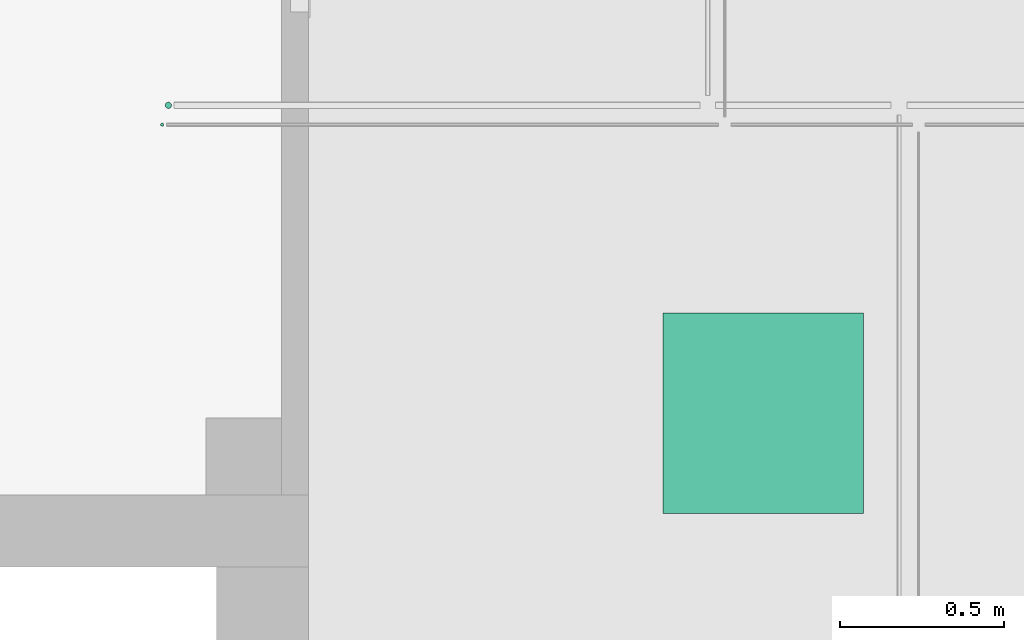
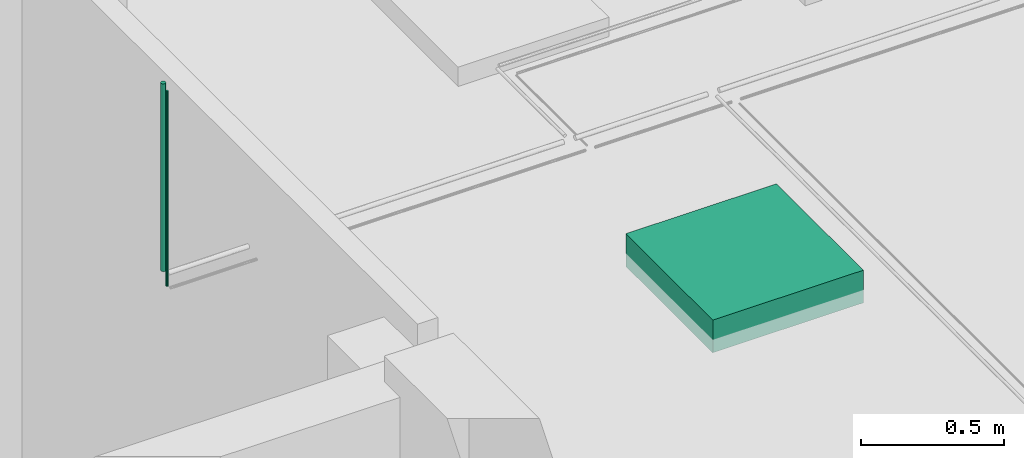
# One storey, part 7 of 24: 2 flow segments, 1 flow terminal.
"""IFC2X3 building model written with IfcOpenShell, lengths in millimetres."""

from ifc_helpers import new_model, entity, si_unit, converted_unit, derived_unit, direction, frame, frame_2d, origin, origin_2d_with_axis, place, context, subcontext, project, spatial, polyline, rectangle, circle, outline, extrude, source, transform, mapped, material, material_list, type_object, type_shapes, element, save


model = new_model("IFC2X3")

# Units and contexts
model_context = context("Model", 3, precision=0.01, world=origin(), true_north=direction((6.123031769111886e-17, 1.0)))
body_context = subcontext(model_context, "Body", "Model", "MODEL_VIEW")
ifc_project = project(units=[si_unit("LENGTHUNIT", "METRE", prefix="MILLI"), si_unit("AREAUNIT", "SQUARE_METRE"), si_unit("VOLUMEUNIT", "CUBIC_METRE"), converted_unit("PLANEANGLEUNIT", "DEGREE", entity("IfcRatioMeasure", 0.017453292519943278), si_unit("PLANEANGLEUNIT", "RADIAN"), dimensions=[0, 0, 0, 0, 0, 0, 0]), si_unit("MASSUNIT", "GRAM", prefix="KILO"), derived_unit("MASSDENSITYUNIT", [(si_unit("MASSUNIT", "GRAM", prefix="KILO"), 1), (si_unit("LENGTHUNIT", "METRE"), -3)]), derived_unit("MOMENTOFINERTIAUNIT", [(si_unit("LENGTHUNIT", "METRE"), 4)]), si_unit("TIMEUNIT", "SECOND"), si_unit("FREQUENCYUNIT", "HERTZ"), si_unit("THERMODYNAMICTEMPERATUREUNIT", "DEGREE_CELSIUS"), derived_unit("THERMALTRANSMITTANCEUNIT", [(si_unit("MASSUNIT", "GRAM", prefix="KILO"), 1), (si_unit("THERMODYNAMICTEMPERATUREUNIT", "KELVIN"), -1), (si_unit("TIMEUNIT", "SECOND"), -3)]), derived_unit("VOLUMETRICFLOWRATEUNIT", [(si_unit("LENGTHUNIT", "METRE"), 3), (si_unit("TIMEUNIT", "SECOND"), -1)]), derived_unit("MASSFLOWRATEUNIT", [(si_unit("MASSUNIT", "GRAM", prefix="KILO"), 1), (si_unit("TIMEUNIT", "SECOND"), -1)]), derived_unit("ROTATIONALFREQUENCYUNIT", [(si_unit("TIMEUNIT", "SECOND"), -1)]), si_unit("ELECTRICCURRENTUNIT", "AMPERE"), si_unit("ELECTRICVOLTAGEUNIT", "VOLT"), si_unit("POWERUNIT", "WATT"), si_unit("FORCEUNIT", "NEWTON", prefix="KILO"), si_unit("ILLUMINANCEUNIT", "LUX"), si_unit("LUMINOUSFLUXUNIT", "LUMEN"), si_unit("LUMINOUSINTENSITYUNIT", "CANDELA"), derived_unit("USERDEFINED", [(si_unit("MASSUNIT", "GRAM", prefix="KILO"), -1), (si_unit("LENGTHUNIT", "METRE"), -2), (si_unit("TIMEUNIT", "SECOND"), 3), (si_unit("LUMINOUSFLUXUNIT", "LUMEN"), 1)]), derived_unit("SOUNDPOWERUNIT", [(si_unit("MASSUNIT", "GRAM", prefix="KILO"), 1), (si_unit("LENGTHUNIT", "METRE"), 2), (si_unit("TIMEUNIT", "SECOND"), -3)]), derived_unit("SOUNDPRESSUREUNIT", [(si_unit("MASSUNIT", "GRAM", prefix="KILO"), 1), (si_unit("LENGTHUNIT", "METRE"), -1), (si_unit("TIMEUNIT", "SECOND"), -2)]), derived_unit("LINEARVELOCITYUNIT", [(si_unit("LENGTHUNIT", "METRE"), 1), (si_unit("TIMEUNIT", "SECOND"), -1)]), si_unit("PRESSUREUNIT", "PASCAL"), derived_unit("USERDEFINED", [(si_unit("LENGTHUNIT", "METRE"), -2), (si_unit("MASSUNIT", "GRAM", prefix="KILO"), 1), (si_unit("TIMEUNIT", "SECOND"), -2)]), derived_unit("LINEARFORCEUNIT", [(si_unit("MASSUNIT", "GRAM", prefix="KILO"), 1), (si_unit("LENGTHUNIT", "METRE"), 1), (si_unit("TIMEUNIT", "SECOND"), -2), (si_unit("LENGTHUNIT", "METRE"), -1)]), derived_unit("PLANARFORCEUNIT", [(si_unit("MASSUNIT", "GRAM", prefix="KILO"), 1), (si_unit("LENGTHUNIT", "METRE"), 1), (si_unit("TIMEUNIT", "SECOND"), -2), (si_unit("LENGTHUNIT", "METRE"), -2)])], contexts=[model_context])

# Site, building, storey
site_placement = place(None, origin())
site = spatial("IfcSite", under=ifc_project, at=site_placement, Name="Default", CompositionType="ELEMENT")
building_placement = place(site_placement, origin())
building = spatial("IfcBuilding", under=site, at=building_placement, CompositionType="ELEMENT")
storey_placement = place(building_placement, origin())
storey = spatial("IfcBuildingStorey", under=building, at=storey_placement, Name="Level 1", CompositionType="ELEMENT", Elevation=0.0)

# Flow segments
ifc_material_1 = material(Name="<Unnamed>")
pipe_segment_type_1 = type_object("IfcPipeSegmentType", Name="Pipe Types:Standard:Standard : Pipe Types:Standard", PredefinedType="NOTDEFINED", material=ifc_material_1)
shared_shape_1 = source(origin(), body_context, "Body", "SweptSolid", [
    extrude(circle(Radius=9.525, at=origin_2d_with_axis()), frame((-9571.489602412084, 2191.0643030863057, 2727.46249999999), z_axis=(0.0, 0.0, 1.0), x_axis=(-1.0, 0.0, 0.0)), (0.0, 0.0, 1.0), 803.3315248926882),
])
type_shapes(pipe_segment_type_1, [shared_shape_1])
flow_segment_1_placement = place(storey_placement, origin())
element("IfcFlowSegment", 1, at=flow_segment_1_placement, inside=storey, type_object=pipe_segment_type_1, material=ifc_material_1, Name="Pipe Types:Standard:Standard : Pipe Types:Standard:Standard:Standard : Pipe Types:Standard : Pipe Types:Standard:Standard : Pipe Types:Standard", ObjectType="Pipe Types:Standard:Standard : Pipe Types:Standard:Standard:Standard : Pipe Types:Standard : Pipe Types:Standard:Standard : Pipe Types:Standard", context=body_context, shape_type="MappedRepresentation", body=[
    mapped(shared_shape_1, transform((0.0, 0.0, 0.0), scale=1.0)),
])
pipe_segment_type_2 = type_object("IfcPipeSegmentType", Name="Pipe Types:Standard:Standard : Pipe Types:Standard", PredefinedType="NOTDEFINED", material=ifc_material_1)
shared_shape_2 = source(origin(), body_context, "Body", "SweptSolid", [
    extrude(circle(Radius=4.76, at=origin_2d_with_axis()), frame((-9590.363421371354, 2132.040216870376, 2702.69999999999), z_axis=(0.0, 0.0, 1.0), x_axis=(-1.0, 0.0, 0.0)), (0.0, 0.0, 1.0), 835.3565248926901),
])
type_shapes(pipe_segment_type_2, [shared_shape_2])
flow_segment_2_placement = place(storey_placement, origin())
element("IfcFlowSegment", 2, at=flow_segment_2_placement, inside=storey, type_object=pipe_segment_type_2, material=ifc_material_1, Name="Pipe Types:Standard:Standard : Pipe Types:Standard:Standard:Standard : Pipe Types:Standard : Pipe Types:Standard:Standard : Pipe Types:Standard", ObjectType="Pipe Types:Standard:Standard : Pipe Types:Standard:Standard:Standard : Pipe Types:Standard : Pipe Types:Standard:Standard : Pipe Types:Standard", context=body_context, shape_type="MappedRepresentation", body=[
    mapped(shared_shape_2, transform((0.0, 0.0, 0.0), scale=1.0)),
])

# Flow terminal
ifc_material_2 = material(Name="Glass, White, High Luminance")
ifc_material_3 = material(Name="Steel, Chrome Plated 155972")
ifc_material_list_1 = material_list([ifc_material_2, ifc_material_3, ifc_material_2, ifc_material_3])
ifc_material_list_2 = material_list([ifc_material_2, ifc_material_3, ifc_material_2, ifc_material_3])
light_fixture_type = type_object("IfcLightFixtureType", Name="M_Troffer Light - Parabolic Square control rooms:0600x0600mm(2 Lamp) - 120V:0600x0600mm(2 Lamp) - 120V : M_Troffer Light - Parabolic Square control rooms:0600x0600mm(2 Lamp) - 120V", PredefinedType="NOTDEFINED", material=ifc_material_list_2)
shared_shape_3 = source(origin(), body_context, "Body", "SweptSolid", [
    extrude(rectangle(XDim=558.8000000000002, YDim=558.7999999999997, at=frame_2d((0.0, 5.400124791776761e-13), x_axis=(1.0, 0.0))), frame((-7760.566741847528, 1254.1672463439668, 2676.199999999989), z_axis=(0.0, 0.0, 1.0), x_axis=(0.0, 1.0, 0.0)), (0.0, 0.0, 1.0), 6.350000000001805),
    extrude(outline(polyline([(-304.8, -304.8000000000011), (304.8000000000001, -304.8000000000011), (304.8000000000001, 304.8), (-304.8, 304.8), (-304.8, -304.8000000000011)]), holes=[polyline([(279.4000000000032, 279.39999999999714), (279.4000000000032, -279.40000000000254), (-279.39999999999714, -279.40000000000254), (-279.39999999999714, 279.39999999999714), (279.4000000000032, 279.39999999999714)])]), frame((-7760.566741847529, 1254.1672463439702, 2600.0), z_axis=(0.0, 0.0, 1.0), x_axis=(0.0, -1.0, 0.0)), (0.0, 0.0, 1.0), 114.29999999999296),
    extrude(rectangle(XDim=558.8000000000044, YDim=558.7999999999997, at=frame_2d((5.684341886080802e-14, 5.400124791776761e-13), x_axis=(1.0, 0.0))), frame((-7760.566741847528, 1254.167246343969, 2590.0), z_axis=(0.0, 0.0, 1.0), x_axis=(0.0, 1.0, 0.0)), (0.0, 0.0, 1.0), 59.99999999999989),
    extrude(rectangle(XDim=609.6, YDim=609.6000000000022, at=origin_2d_with_axis()), frame((-7760.5667418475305, 1254.1672463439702, 2714.2999999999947), z_axis=(0.0, 0.0, 1.0), x_axis=(0.0, 1.0, 0.0)), (0.0, 0.0, 1.0), 25.399999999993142),
])
type_shapes(light_fixture_type, [shared_shape_3])
flow_terminal_placement = place(storey_placement, origin())
element("IfcFlowTerminal", 3, at=flow_terminal_placement, inside=storey, type_object=light_fixture_type, material=ifc_material_list_1, context=body_context, shape_type="MappedRepresentation", body=[
    mapped(shared_shape_3, transform((0.0, 0.0, 0.0), scale=1.0)),
])

save(model, "model.ifc")
